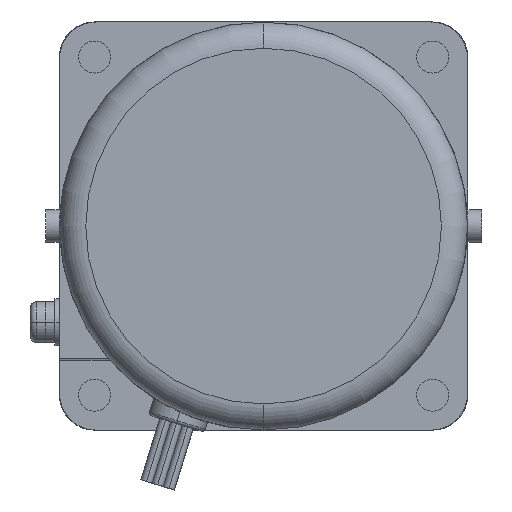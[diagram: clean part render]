
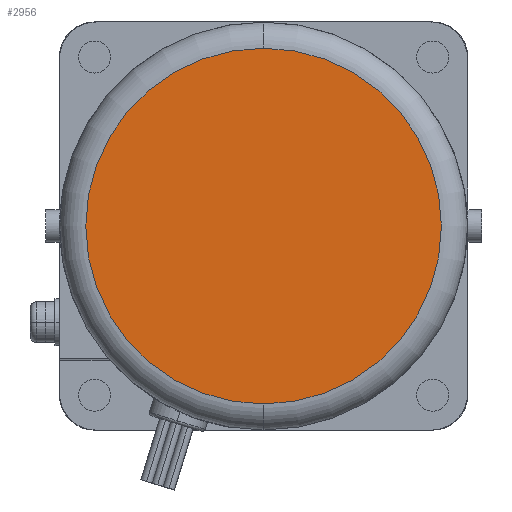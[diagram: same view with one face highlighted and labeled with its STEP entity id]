
A CAD part, left-side view. The second image highlights one B-rep face of the part: STEP entity #2956.
In plain terms, the highlighted planar face has unit normal (-1, 0, 0).
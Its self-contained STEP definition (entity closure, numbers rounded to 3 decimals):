
#2936=CARTESIAN_POINT('POINT600144',(-162.,0.,
   15.5));
#2937=VERTEX_POINT('VERTEX600144',#2936);
#2938=CARTESIAN_POINT('POINT600145',(-162.,0.,
   -45.5));
#2939=VERTEX_POINT('VERTEX600145',#2938);
#2940=CARTESIAN_POINT('POS987236',(-162.,0.,-15.));
#2941=DIRECTION('DIR1471624',(-1.,0.,0.));
#2942=DIRECTION('DIR1471625',(0.,0.,-1.));
#2943=AXIS2_PLACEMENT_3D('AXIS484389',#2940,#2941,#2942);
#2944=CIRCLE('ELLIPSE215965',#2943,30.5);
#2945=EDGE_CURVE('EDGE923469',#2937,#2939,#2944,.T.);
#2946=ORIENTED_EDGE('COEDGE1847541',*,*,#2945,.T.);
#2947=EDGE_CURVE('EDGE923470',#2939,#2937,#2944,.T.);
#2948=ORIENTED_EDGE('COEDGE1847542',*,*,#2947,.T.);
#2949=EDGE_LOOP('NONE',(#2946,#2948));
#2950=FACE_BOUND('LOOP1',#2949,.T.);
#2951=CARTESIAN_POINT('POS987237',(-162.,0.,-32.495));
#2952=DIRECTION('DIR1471626',(-1.,0.,0.));
#2953=DIRECTION('DIR1471627',(0.,1.,0.));
#2954=AXIS2_PLACEMENT_3D('AXIS484390',#2951,#2952,#2953);
#2955=PLANE('PLANE171929',#2954);
#2956=ADVANCED_FACE('FACE375191',(#2950),#2955,.T.);
